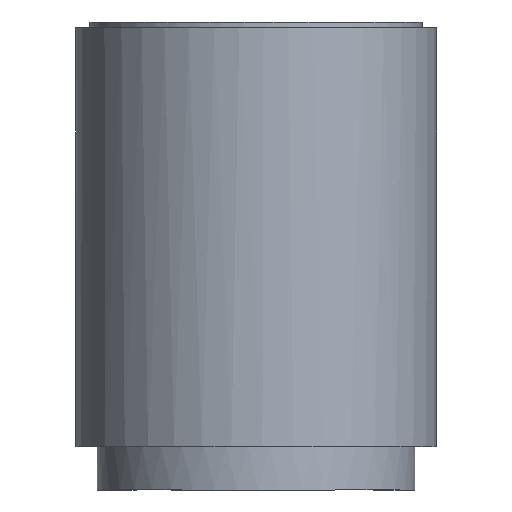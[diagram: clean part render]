
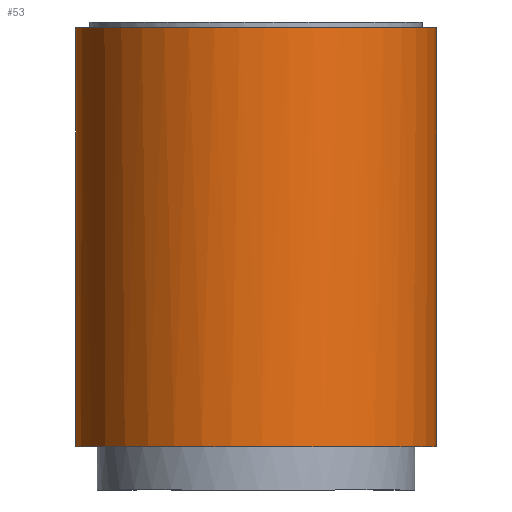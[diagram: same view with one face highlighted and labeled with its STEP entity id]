
A CAD part, front view. The second image highlights one B-rep face of the part: STEP entity #53.
In plain terms, the highlighted cylindrical face has radius 248.516 mm (diameter 497.031 mm), a partial arc.
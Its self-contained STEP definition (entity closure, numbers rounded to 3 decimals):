
#53=ADVANCED_FACE('',(#83),#400,.T.);
#83=FACE_OUTER_BOUND('',#117,.T.);
#117=EDGE_LOOP('',(#216,#217,#218,#219));
#216=ORIENTED_EDGE('',*,*,#295,.F.);
#217=ORIENTED_EDGE('',*,*,#285,.T.);
#218=ORIENTED_EDGE('',*,*,#283,.T.);
#219=ORIENTED_EDGE('',*,*,#289,.F.);
#283=EDGE_CURVE('',#385,#390,#349,.T.);
#285=EDGE_CURVE('',#391,#385,#321,.T.);
#289=EDGE_CURVE('',#382,#390,#325,.T.);
#295=EDGE_CURVE('',#391,#382,#355,.T.);
#321=B_SPLINE_CURVE_WITH_KNOTS('',1,(#854,#855),.UNSPECIFIED.,.F.,.F.,(2,
2),(0.,58.),.UNSPECIFIED.);
#325=B_SPLINE_CURVE_WITH_KNOTS('',3,(#868,#869,#870,#871),.UNSPECIFIED.,
 .F.,.F.,(4,4),(-58.,0.),.UNSPECIFIED.);
#349=(
BOUNDED_CURVE()
B_SPLINE_CURVE(2,(#844,#845,#846,#847,#848,#849,#850),.UNSPECIFIED.,.F.,
 .F.)
B_SPLINE_CURVE_WITH_KNOTS((3,2,2,3),(-157.08,-117.81,
-78.54,-60.225),.UNSPECIFIED.)
CURVE()
GEOMETRIC_REPRESENTATION_ITEM()
RATIONAL_B_SPLINE_CURVE((1.,0.707,1.,0.707,1.,0.934,
1.))
REPRESENTATION_ITEM('')
);
#355=(
BOUNDED_CURVE()
B_SPLINE_CURVE(2,(#888,#889,#890,#891,#892,#893,#894,#895,#896),
 .UNSPECIFIED.,.F.,.F.)
B_SPLINE_CURVE_WITH_KNOTS((3,2,2,2,3),(37.011,61.207,
85.402,109.598,133.794),.UNSPECIFIED.)
CURVE()
GEOMETRIC_REPRESENTATION_ITEM()
RATIONAL_B_SPLINE_CURVE((1.,0.885,1.,0.885,1.,0.885,
1.,0.885,1.))
REPRESENTATION_ITEM('')
);
#382=VERTEX_POINT('',#813);
#385=VERTEX_POINT('',#816);
#390=VERTEX_POINT('',#821);
#391=VERTEX_POINT('',#822);
#400=CYLINDRICAL_SURFACE('',#535,248.516);
#535=AXIS2_PLACEMENT_3D('',#806,#569,$);
#569=DIRECTION('',(0.,0.,1.));
#806=CARTESIAN_POINT('',(0.001,-218.693,347.922));
#813=CARTESIAN_POINT('',(-185.232,-53.017,59.644));
#816=CARTESIAN_POINT('',(248.516,-218.693,636.2));
#821=CARTESIAN_POINT('',(-185.232,-53.017,636.2));
#822=CARTESIAN_POINT('',(248.516,-218.693,59.644));
#844=CARTESIAN_POINT('',(248.516,-218.693,636.2));
#845=CARTESIAN_POINT('',(248.516,-467.209,636.2));
#846=CARTESIAN_POINT('',(0.001,-467.209,636.2));
#847=CARTESIAN_POINT('',(-248.515,-467.209,636.2));
#848=CARTESIAN_POINT('',(-248.515,-218.693,636.2));
#849=CARTESIAN_POINT('',(-248.515,-123.769,636.2));
#850=CARTESIAN_POINT('',(-185.232,-53.017,636.2));
#854=CARTESIAN_POINT('',(248.516,-218.693,59.644));
#855=CARTESIAN_POINT('',(248.516,-218.693,636.2));
#868=CARTESIAN_POINT('',(-185.232,-53.017,59.644));
#869=CARTESIAN_POINT('',(-185.232,-53.017,251.829));
#870=CARTESIAN_POINT('',(-185.232,-53.017,444.015));
#871=CARTESIAN_POINT('',(-185.232,-53.017,636.2));
#888=CARTESIAN_POINT('',(248.516,-218.693,59.644));
#889=CARTESIAN_POINT('',(248.516,-349.312,59.644));
#890=CARTESIAN_POINT('',(140.931,-423.385,59.644));
#891=CARTESIAN_POINT('',(33.346,-497.458,59.644));
#892=CARTESIAN_POINT('',(-88.675,-450.85,59.644));
#893=CARTESIAN_POINT('',(-210.696,-404.242,59.644));
#894=CARTESIAN_POINT('',(-241.504,-277.308,59.644));
#895=CARTESIAN_POINT('',(-272.312,-150.374,59.644));
#896=CARTESIAN_POINT('',(-185.232,-53.017,59.644));
